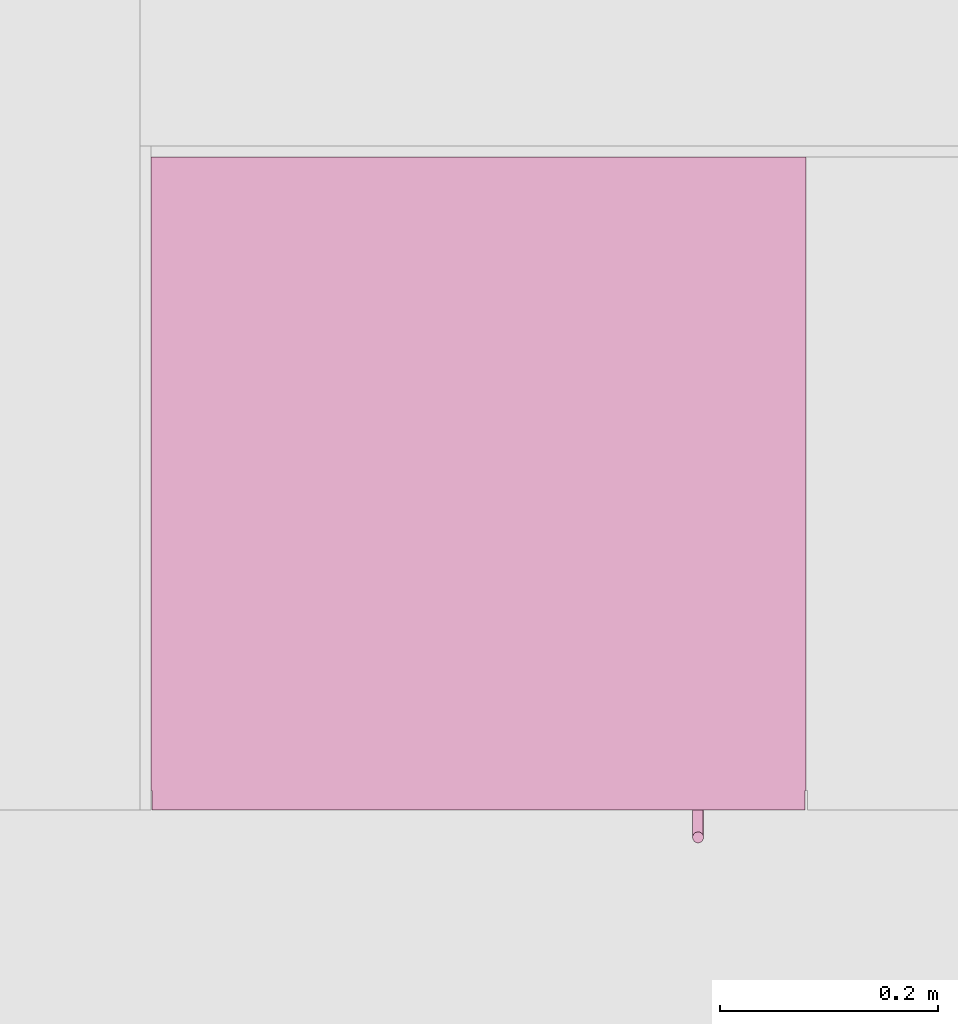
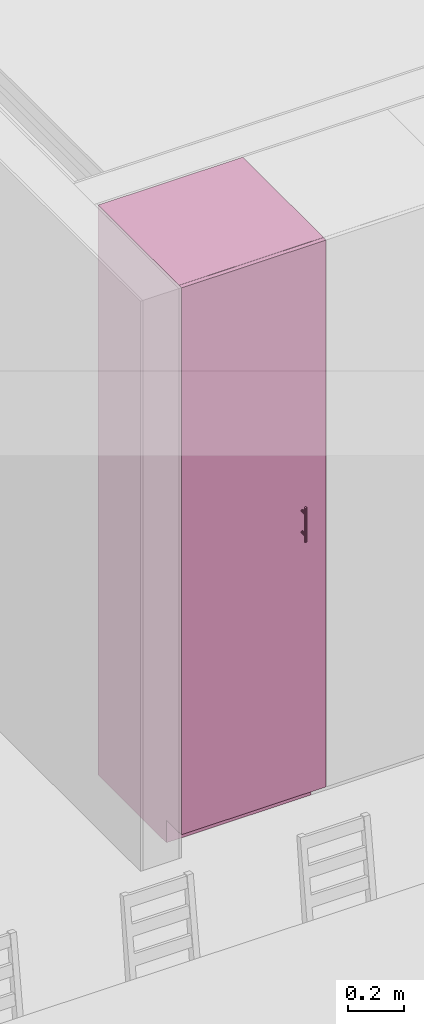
# One storey, part 27 of 34: 1 furniture element.
"""IFC4 building model written with IfcOpenShell, lengths in millimetres."""

from ifc_helpers import new_model, entity, si_unit, converted_unit, derived_unit, direction, frame, origin_with_axes, place, context, subcontext, project, spatial, polygons, source, transform, mapped, type_object, element, save


model = new_model("IFC4")

# Units and contexts
model_context = context("Model", 3, precision=0.01, world=origin_with_axes(), true_north=direction((0.0, 1.0)))
body_context = subcontext(model_context, "Body", "Model", "MODEL_VIEW")
ifc_project = project(units=[si_unit("LENGTHUNIT", "METRE", prefix="MILLI"), si_unit("AREAUNIT", "SQUARE_METRE"), si_unit("VOLUMEUNIT", "CUBIC_METRE"), converted_unit("PLANEANGLEUNIT", "DEGREE", entity("IfcPlaneAngleMeasure", 0.0174532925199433), si_unit("PLANEANGLEUNIT", "RADIAN"), dimensions=[0, 0, 0, 0, 0, 0, 0]), converted_unit("TIMEUNIT", "Year", entity("IfcTimeMeasure", 31557600.0), si_unit("TIMEUNIT", "SECOND"), dimensions=[0, 0, 1, 0, 0, 0, 0]), si_unit("MASSUNIT", "GRAM", prefix="KILO"), si_unit("THERMODYNAMICTEMPERATUREUNIT", "DEGREE_CELSIUS"), si_unit("LUMINOUSINTENSITYUNIT", "LUMEN"), si_unit("ENERGYUNIT", "JOULE", prefix="MEGA"), derived_unit("THERMALCONDUCTANCEUNIT", [(si_unit("POWERUNIT", "WATT"), 1), (si_unit("LENGTHUNIT", "METRE"), -1), (si_unit("THERMODYNAMICTEMPERATUREUNIT", "KELVIN"), -1)]), derived_unit("SPECIFICHEATCAPACITYUNIT", [(si_unit("ENERGYUNIT", "JOULE"), 1), (si_unit("MASSUNIT", "GRAM", prefix="KILO"), -1), (si_unit("THERMODYNAMICTEMPERATUREUNIT", "KELVIN"), -1)]), derived_unit("MASSDENSITYUNIT", [(si_unit("MASSUNIT", "GRAM", prefix="KILO"), 1), (si_unit("VOLUMEUNIT", "CUBIC_METRE"), -1)])], contexts=[model_context])

# Site, building, storey
site_placement = place(None, origin_with_axes())
site = spatial("IfcSite", under=ifc_project, at=site_placement, Name="Gelände", CompositionType="ELEMENT")
building_placement = place(site_placement, origin_with_axes())
building = spatial("IfcBuilding", under=site, at=building_placement, Name="Gebäude", CompositionType="ELEMENT")
storey_placement = place(building_placement, frame((0.0, 0.0, 5799.999999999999), z_axis=(0.0, 0.0, 1.0), x_axis=(1.0, 0.0, 0.0)))
storey = spatial("IfcBuildingStorey", under=building, at=storey_placement, Name="2.OG", CompositionType="ELEMENT", Elevation=5800.0)

# Furniture
furniture_type = type_object("IfcFurnitureType", Name="Stehender Schrank Block 27", AssemblyPlace="NOTDEFINED", PredefinedType="NOTDEFINED")
shared_shape = source(origin_with_axes(), body_context, "Body", "Tessellation", [
    polygons([(501.8682408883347, -597.9999999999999, 1352.799038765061), (502.7101007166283, -597.9999999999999, 1352.573463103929), (503.4999999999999, -597.9999999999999, 1352.205127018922), (504.2139380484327, -597.9999999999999, 1351.705222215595), (504.8302222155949, -597.9999999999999, 1351.088938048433), (505.3301270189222, -597.9999999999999, 1350.375), (505.6984631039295, -597.9999999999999, 1349.585100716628), (505.924038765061, -597.9999999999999, 1348.743240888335), (506.0, -597.9999999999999, 1347.875), (505.924038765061, -597.9999999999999, 1347.006759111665), (505.6984631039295, -597.9999999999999, 1346.164899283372), (505.3301270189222, -597.9999999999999, 1345.375), (504.8302222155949, -597.9999999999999, 1344.661061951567), (504.2139380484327, -597.9999999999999, 1344.044777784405), (503.4999999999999, -597.9999999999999, 1343.544872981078), (502.7101007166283, -597.9999999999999, 1343.176536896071), (501.8682408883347, -597.9999999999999, 1342.950961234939), (501.0, -597.9999999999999, 1342.875), (500.1317591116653, -597.9999999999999, 1342.950961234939), (499.2898992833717, -597.9999999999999, 1343.176536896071), (498.5, -597.9999999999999, 1343.544872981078), (497.7860619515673, -597.9999999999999, 1344.044777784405), (497.1697777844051, -597.9999999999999, 1344.661061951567), (496.6698729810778, -597.9999999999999, 1345.375), (496.3015368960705, -597.9999999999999, 1346.164899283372), (496.075961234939, -597.9999999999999, 1347.006759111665), (496.0, -597.9999999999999, 1347.875), (496.075961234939, -597.9999999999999, 1348.743240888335), (496.3015368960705, -597.9999999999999, 1349.585100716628), (496.6698729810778, -597.9999999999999, 1350.375), (497.1697777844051, -597.9999999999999, 1351.088938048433), (497.7860619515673, -597.9999999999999, 1351.705222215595), (498.5, -597.9999999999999, 1352.205127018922), (499.2898992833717, -597.9999999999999, 1352.573463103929), (500.1317591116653, -597.9999999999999, 1352.799038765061), (501.0, -597.9999999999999, 1352.875), (501.8682408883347, -622.9999999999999, 1352.799038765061), (502.7101007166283, -622.9999999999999, 1352.573463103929), (503.4999999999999, -622.9999999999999, 1352.205127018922), (504.2139380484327, -622.9999999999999, 1351.705222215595), (504.8302222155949, -622.9999999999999, 1351.088938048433), (505.3301270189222, -622.9999999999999, 1350.375), (505.6984631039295, -622.9999999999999, 1349.585100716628), (505.924038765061, -622.9999999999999, 1348.743240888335), (506.0, -622.9999999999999, 1347.875), (505.924038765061, -622.9999999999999, 1347.006759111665), (505.6984631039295, -622.9999999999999, 1346.164899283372), (505.3301270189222, -622.9999999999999, 1345.375), (504.8302222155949, -622.9999999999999, 1344.661061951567), (504.2139380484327, -622.9999999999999, 1344.044777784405), (503.4999999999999, -622.9999999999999, 1343.544872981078), (502.7101007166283, -622.9999999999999, 1343.176536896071), (501.8682408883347, -622.9999999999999, 1342.950961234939), (501.0, -622.9999999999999, 1342.875), (500.1317591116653, -622.9999999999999, 1342.950961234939), (499.2898992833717, -622.9999999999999, 1343.176536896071), (498.5, -622.9999999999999, 1343.544872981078), (497.7860619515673, -622.9999999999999, 1344.044777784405), (497.1697777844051, -622.9999999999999, 1344.661061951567), (496.6698729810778, -622.9999999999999, 1345.375), (496.3015368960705, -622.9999999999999, 1346.164899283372), (496.075961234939, -622.9999999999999, 1347.006759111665), (496.0, -622.9999999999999, 1347.875), (496.075961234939, -622.9999999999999, 1348.743240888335), (496.3015368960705, -622.9999999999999, 1349.585100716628), (496.6698729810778, -622.9999999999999, 1350.375), (497.1697777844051, -622.9999999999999, 1351.088938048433), (497.7860619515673, -622.9999999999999, 1351.705222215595), (498.5, -622.9999999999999, 1352.205127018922), (499.2898992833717, -622.9999999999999, 1352.573463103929), (500.1317591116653, -622.9999999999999, 1352.799038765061), (501.0, -622.9999999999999, 1352.875)], [[[1, 2, 3, 4, 5, 6, 7, 8, 9, 10, 11, 12, 13, 14, 15, 16, 17, 18, 19, 20, 21, 22, 23, 24, 25, 26, 27, 28, 29, 30, 31, 32, 33, 34, 35, 36]], [[2, 1, 37, 38]], [[3, 2, 38, 39]], [[4, 3, 39, 40]], [[5, 4, 40, 41]], [[6, 5, 41, 42]], [[7, 6, 42, 43]], [[8, 7, 43, 44]], [[9, 8, 44, 45]], [[10, 9, 45, 46]], [[11, 10, 46, 47]], [[12, 11, 47, 48]], [[13, 12, 48, 49]], [[14, 13, 49, 50]], [[15, 14, 50, 51]], [[16, 15, 51, 52]], [[17, 16, 52, 53]], [[18, 17, 53, 54]], [[19, 18, 54, 55]], [[20, 19, 55, 56]], [[21, 20, 56, 57]], [[22, 21, 57, 58]], [[23, 22, 58, 59]], [[24, 23, 59, 60]], [[25, 24, 60, 61]], [[26, 25, 61, 62]], [[27, 26, 62, 63]], [[28, 27, 63, 64]], [[29, 28, 64, 65]], [[30, 29, 65, 66]], [[31, 30, 66, 67]], [[32, 31, 67, 68]], [[33, 32, 68, 69]], [[34, 33, 69, 70]], [[35, 34, 70, 71]], [[36, 35, 71, 72]], [[1, 36, 72, 37]], [[37, 72, 71, 70, 69, 68, 67, 66, 65, 64, 63, 62, 61, 60, 59, 58, 57, 56, 55, 54, 53, 52, 51, 50, 49, 48, 47, 46, 45, 44, 43, 42, 41, 40, 39, 38]]], closed=True),
    polygons([(501.8682408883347, -597.9999999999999, 1249.200961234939), (501.0, -597.9999999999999, 1249.125), (500.1317591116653, -597.9999999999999, 1249.200961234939), (499.2898992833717, -597.9999999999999, 1249.426536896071), (498.5, -597.9999999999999, 1249.794872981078), (497.7860619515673, -597.9999999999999, 1250.294777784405), (497.1697777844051, -597.9999999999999, 1250.911061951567), (496.6698729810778, -597.9999999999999, 1251.625), (496.3015368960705, -597.9999999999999, 1252.414899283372), (496.075961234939, -597.9999999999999, 1253.256759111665), (496.0, -597.9999999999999, 1254.125), (496.075961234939, -597.9999999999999, 1254.993240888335), (496.3015368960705, -597.9999999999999, 1255.835100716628), (496.6698729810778, -597.9999999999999, 1256.625), (497.1697777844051, -597.9999999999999, 1257.338938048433), (497.7860619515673, -597.9999999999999, 1257.955222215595), (498.5, -597.9999999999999, 1258.455127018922), (499.2898992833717, -597.9999999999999, 1258.823463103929), (500.1317591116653, -597.9999999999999, 1259.049038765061), (501.0, -597.9999999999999, 1259.125), (501.8682408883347, -597.9999999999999, 1259.049038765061), (502.7101007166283, -597.9999999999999, 1258.823463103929), (503.4999999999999, -597.9999999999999, 1258.455127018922), (504.2139380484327, -597.9999999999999, 1257.955222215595), (504.8302222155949, -597.9999999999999, 1257.338938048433), (505.3301270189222, -597.9999999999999, 1256.625), (505.6984631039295, -597.9999999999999, 1255.835100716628), (505.924038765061, -597.9999999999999, 1254.993240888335), (506.0, -597.9999999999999, 1254.125), (505.924038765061, -597.9999999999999, 1253.256759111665), (505.6984631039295, -597.9999999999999, 1252.414899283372), (505.3301270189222, -597.9999999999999, 1251.625), (504.8302222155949, -597.9999999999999, 1250.911061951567), (504.2139380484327, -597.9999999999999, 1250.294777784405), (503.4999999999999, -597.9999999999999, 1249.794872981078), (502.7101007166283, -597.9999999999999, 1249.426536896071), (501.8682408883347, -622.9999999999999, 1249.200961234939), (501.0, -622.9999999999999, 1249.125), (500.1317591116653, -622.9999999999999, 1249.200961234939), (499.2898992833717, -622.9999999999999, 1249.426536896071), (498.5, -622.9999999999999, 1249.794872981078), (497.7860619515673, -622.9999999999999, 1250.294777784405), (497.1697777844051, -622.9999999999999, 1250.911061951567), (496.6698729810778, -622.9999999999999, 1251.625), (496.3015368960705, -622.9999999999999, 1252.414899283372), (496.075961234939, -622.9999999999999, 1253.256759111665), (496.0, -622.9999999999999, 1254.125), (496.075961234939, -622.9999999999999, 1254.993240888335), (496.3015368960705, -622.9999999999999, 1255.835100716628), (496.6698729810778, -622.9999999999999, 1256.625), (497.1697777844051, -622.9999999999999, 1257.338938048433), (497.7860619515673, -622.9999999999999, 1257.955222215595), (498.5, -622.9999999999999, 1258.455127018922), (499.2898992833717, -622.9999999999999, 1258.823463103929), (500.1317591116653, -622.9999999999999, 1259.049038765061), (501.0, -622.9999999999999, 1259.125), (501.8682408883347, -622.9999999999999, 1259.049038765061), (502.7101007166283, -622.9999999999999, 1258.823463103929), (503.4999999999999, -622.9999999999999, 1258.455127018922), (504.2139380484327, -622.9999999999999, 1257.955222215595), (504.8302222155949, -622.9999999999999, 1257.338938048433), (505.3301270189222, -622.9999999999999, 1256.625), (505.6984631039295, -622.9999999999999, 1255.835100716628), (505.924038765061, -622.9999999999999, 1254.993240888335), (506.0, -622.9999999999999, 1254.125), (505.924038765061, -622.9999999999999, 1253.256759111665), (505.6984631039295, -622.9999999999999, 1252.414899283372), (505.3301270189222, -622.9999999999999, 1251.625), (504.8302222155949, -622.9999999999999, 1250.911061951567), (504.2139380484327, -622.9999999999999, 1250.294777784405), (503.4999999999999, -622.9999999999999, 1249.794872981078), (502.7101007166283, -622.9999999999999, 1249.426536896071)], [[[1, 2, 3, 4, 5, 6, 7, 8, 9, 10, 11, 12, 13, 14, 15, 16, 17, 18, 19, 20, 21, 22, 23, 24, 25, 26, 27, 28, 29, 30, 31, 32, 33, 34, 35, 36]], [[1, 37, 38, 2]], [[2, 38, 39, 3]], [[3, 39, 40, 4]], [[4, 40, 41, 5]], [[5, 41, 42, 6]], [[6, 42, 43, 7]], [[7, 43, 44, 8]], [[8, 44, 45, 9]], [[9, 45, 46, 10]], [[10, 46, 47, 11]], [[11, 47, 48, 12]], [[12, 48, 49, 13]], [[13, 49, 50, 14]], [[14, 50, 51, 15]], [[15, 51, 52, 16]], [[16, 52, 53, 17]], [[17, 53, 54, 18]], [[18, 54, 55, 19]], [[19, 55, 56, 20]], [[20, 56, 57, 21]], [[21, 57, 58, 22]], [[22, 58, 59, 23]], [[23, 59, 60, 24]], [[24, 60, 61, 25]], [[25, 61, 62, 26]], [[26, 62, 63, 27]], [[27, 63, 64, 28]], [[28, 64, 65, 29]], [[29, 65, 66, 30]], [[30, 66, 67, 31]], [[31, 67, 68, 32]], [[32, 68, 69, 33]], [[33, 69, 70, 34]], [[34, 70, 71, 35]], [[35, 71, 72, 36]], [[36, 72, 37, 1]], [[37, 72, 71, 70, 69, 68, 67, 66, 65, 64, 63, 62, 61, 60, 59, 58, 57, 56, 55, 54, 53, 52, 51, 50, 49, 48, 47, 46, 45, 44, 43, 42, 41, 40, 39, 38]]], closed=True),
    polygons([(501.8682408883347, -618.0759612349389, 1226.0), (502.7101007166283, -618.3015368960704, 1226.0), (503.4999999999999, -618.6698729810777, 1226.0), (504.2139380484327, -619.1697777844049, 1226.0), (504.8302222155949, -619.7860619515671, 1226.0), (505.3301270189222, -620.4999999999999, 1226.0), (505.6984631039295, -621.2898992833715, 1226.0), (505.924038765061, -622.1317591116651, 1226.0), (506.0, -622.9999999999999, 1226.0), (505.924038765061, -623.8682408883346, 1226.0), (505.6984631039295, -624.7101007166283, 1226.0), (505.3301270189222, -625.4999999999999, 1226.0), (504.8302222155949, -626.2139380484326, 1226.0), (504.2139380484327, -626.8302222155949, 1226.0), (503.4999999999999, -627.3301270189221, 1226.0), (502.7101007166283, -627.6984631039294, 1226.0), (501.8682408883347, -627.924038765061, 1226.0), (501.0, -627.9999999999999, 1226.0), (500.1317591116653, -627.924038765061, 1226.0), (499.2898992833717, -627.6984631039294, 1226.0), (498.5, -627.3301270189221, 1226.0), (497.7860619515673, -626.8302222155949, 1226.0), (497.1697777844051, -626.2139380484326, 1226.0), (496.6698729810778, -625.4999999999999, 1226.0), (496.3015368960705, -624.7101007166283, 1226.0), (496.075961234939, -623.8682408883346, 1226.0), (496.0, -622.9999999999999, 1226.0), (496.075961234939, -622.1317591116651, 1226.0), (496.3015368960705, -621.2898992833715, 1226.0), (496.6698729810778, -620.4999999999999, 1226.0), (497.1697777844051, -619.7860619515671, 1226.0), (497.7860619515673, -619.1697777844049, 1226.0), (498.5, -618.6698729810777, 1226.0), (499.2898992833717, -618.3015368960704, 1226.0), (500.1317591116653, -618.0759612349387, 1226.0), (501.0, -617.9999999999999, 1226.0), (501.8682408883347, -618.0759612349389, 1376.0), (502.7101007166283, -618.3015368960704, 1376.0), (503.5000000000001, -618.6698729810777, 1376.0), (504.2139380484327, -619.1697777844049, 1376.0), (504.8302222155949, -619.7860619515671, 1376.0), (505.3301270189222, -620.4999999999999, 1376.0), (505.6984631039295, -621.2898992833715, 1376.0), (505.9240387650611, -622.1317591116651, 1376.0), (506.0, -622.9999999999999, 1376.0), (505.9240387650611, -623.8682408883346, 1376.0), (505.6984631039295, -624.7101007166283, 1376.0), (505.3301270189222, -625.4999999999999, 1376.0), (504.8302222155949, -626.2139380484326, 1376.0), (504.2139380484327, -626.8302222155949, 1376.0), (503.5000000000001, -627.3301270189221, 1376.0), (502.7101007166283, -627.6984631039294, 1376.0), (501.8682408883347, -627.924038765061, 1376.0), (501.0, -627.9999999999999, 1376.0), (500.1317591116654, -627.924038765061, 1376.0), (499.2898992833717, -627.6984631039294, 1376.0), (498.5, -627.3301270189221, 1376.0), (497.7860619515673, -626.8302222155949, 1376.0), (497.1697777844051, -626.2139380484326, 1376.0), (496.6698729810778, -625.4999999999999, 1376.0), (496.3015368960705, -624.7101007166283, 1376.0), (496.075961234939, -623.8682408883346, 1376.0), (496.0, -622.9999999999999, 1376.0), (496.075961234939, -622.1317591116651, 1376.0), (496.3015368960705, -621.2898992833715, 1376.0), (496.6698729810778, -620.4999999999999, 1376.0), (497.1697777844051, -619.7860619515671, 1376.0), (497.7860619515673, -619.1697777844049, 1376.0), (498.5, -618.6698729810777, 1376.0), (499.2898992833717, -618.3015368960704, 1376.0), (500.1317591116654, -618.0759612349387, 1376.0), (501.0, -617.9999999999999, 1376.0)], [[[1, 2, 3, 4, 5, 6, 7, 8, 9, 10, 11, 12, 13, 14, 15, 16, 17, 18, 19, 20, 21, 22, 23, 24, 25, 26, 27, 28, 29, 30, 31, 32, 33, 34, 35, 36]], [[2, 1, 37, 38]], [[3, 2, 38, 39]], [[4, 3, 39, 40]], [[5, 4, 40, 41]], [[6, 5, 41, 42]], [[7, 6, 42, 43]], [[8, 7, 43, 44]], [[9, 8, 44, 45]], [[10, 9, 45, 46]], [[11, 10, 46, 47]], [[12, 11, 47, 48]], [[13, 12, 48, 49]], [[14, 13, 49, 50]], [[15, 14, 50, 51]], [[16, 15, 51, 52]], [[17, 16, 52, 53]], [[18, 17, 53, 54]], [[19, 18, 54, 55]], [[20, 19, 55, 56]], [[21, 20, 56, 57]], [[22, 21, 57, 58]], [[23, 22, 58, 59]], [[24, 23, 59, 60]], [[25, 24, 60, 61]], [[26, 25, 61, 62]], [[27, 26, 62, 63]], [[28, 27, 63, 64]], [[29, 28, 64, 65]], [[30, 29, 65, 66]], [[31, 30, 66, 67]], [[32, 31, 67, 68]], [[33, 32, 68, 69]], [[34, 33, 69, 70]], [[35, 34, 70, 71]], [[36, 35, 71, 72]], [[1, 36, 72, 37]], [[37, 72, 71, 70, 69, 68, 67, 66, 65, 64, 63, 62, 61, 60, 59, 58, 57, 56, 55, 54, 53, 52, 51, 50, 49, 48, 47, 46, 45, 44, 43, 42, 41, 40, 39, 38]]], closed=True),
    polygons([(1.0, -580.0, 101.0), (599.0, -580.0, 101.0), (599.0, -598.0, 101.0), (1.0, -598.0, 101.0), (1.0, -579.9999999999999, 2499.0), (599.0, -579.9999999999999, 2499.0), (599.0, -597.9999999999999, 2499.0), (1.0, -597.9999999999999, 2499.0)], [[[1, 2, 3, 4]], [[1, 5, 6, 2]], [[2, 6, 7, 3]], [[4, 3, 7, 8]], [[5, 1, 4, 8]], [[6, 5, 8, 7]]], closed=True),
    polygons([(18.0, -580.0, 100.0), (582.0, -580.0, 100.0), (582.0, -580.0, 118.0), (18.0, -580.0, 118.0), (18.0, 0.0, 100.0), (582.0, 0.0, 100.0), (582.0, 0.0, 118.0), (18.0, 0.0, 118.0)], [[[1, 2, 3, 4]], [[1, 5, 6, 2]], [[2, 6, 7, 3]], [[4, 3, 7, 8]], [[5, 1, 4, 8]], [[6, 5, 8, 7]]], closed=True),
    polygons([(18.0, -580.0, 2482.0), (582.0, -580.0, 2482.0), (582.0, -580.0, 2500.0), (18.0, -580.0, 2500.0), (18.0, 0.0, 2482.0), (582.0, 0.0, 2482.0), (582.0, 0.0, 2500.0), (18.0, 0.0, 2500.0)], [[[1, 2, 3, 4]], [[1, 5, 6, 2]], [[2, 6, 7, 3]], [[4, 3, 7, 8]], [[5, 1, 4, 8]], [[6, 5, 8, 7]]], closed=True),
    polygons([(0.0, 0.0, 100.0), (0.0, -580.0, 100.0), (0.0, -580.0, 2500.0), (0.0, 0.0, 2500.0), (18.0, 0.0, 100.0), (18.0, -580.0, 100.0), (18.0, -580.0, 2500.0), (18.0, 0.0, 2500.0)], [[[1, 2, 3, 4]], [[1, 5, 6, 2]], [[2, 6, 7, 3]], [[4, 3, 7, 8]], [[5, 1, 4, 8]], [[6, 5, 8, 7]]], closed=True),
    polygons([(600.0, -580.0, 100.0), (600.0, 0.0, 100.0), (600.0, 0.0, 2500.0), (600.0, -580.0, 2500.0), (582.0, -580.0, 100.0), (582.0, 0.0, 100.0), (582.0, 0.0, 2500.0), (582.0, -580.0, 2500.0)], [[[1, 2, 3, 4]], [[1, 5, 6, 2]], [[2, 6, 7, 3]], [[4, 3, 7, 8]], [[5, 1, 4, 8]], [[6, 5, 8, 7]]], closed=True),
    polygons([(582.0, -9.0, 118.0), (18.00000000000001, -9.0, 118.0), (18.00000000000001, -9.0, 2482.0), (582.0, -9.0, 2482.0), (582.0, -18.0, 118.0), (18.00000000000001, -18.0, 118.0), (18.00000000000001, -18.0, 2482.0), (582.0, -18.0, 2482.0)], [[[1, 2, 3, 4]], [[1, 5, 6, 2]], [[2, 6, 7, 3]], [[4, 3, 7, 8]], [[5, 1, 4, 8]], [[6, 5, 8, 7]]], closed=True),
    polygons([(0.0, -490.0, 0.0), (600.0, -490.0, 0.0), (600.0, -490.0, 100.0), (0.0, -490.0, 100.0), (0.0, 0.0, 0.0), (600.0, 0.0, 0.0), (600.0, 0.0, 100.0), (0.0, 0.0, 100.0)], [[[1, 2, 3, 4]], [[1, 5, 6, 2]], [[2, 6, 7, 3]], [[4, 3, 7, 8]], [[5, 1, 4, 8]], [[6, 5, 8, 7]]], closed=True),
])
furniture_placement = place(storey_placement, frame((8428.997444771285, 29747.59728131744, 150.0000000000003), z_axis=(0.0, 0.0, 1.0), x_axis=(1.0, 0.0, 0.0)))
element("IfcFurniture", 1, at=furniture_placement, inside=storey, type_object=furniture_type, Name="Möbel-021", PredefinedType="NOTDEFINED", context=body_context, shape_type="MappedRepresentation", body=[
    mapped(shared_shape, transform((0.0, 0.0, 0.0))),
])

save(model, "model.ifc")
